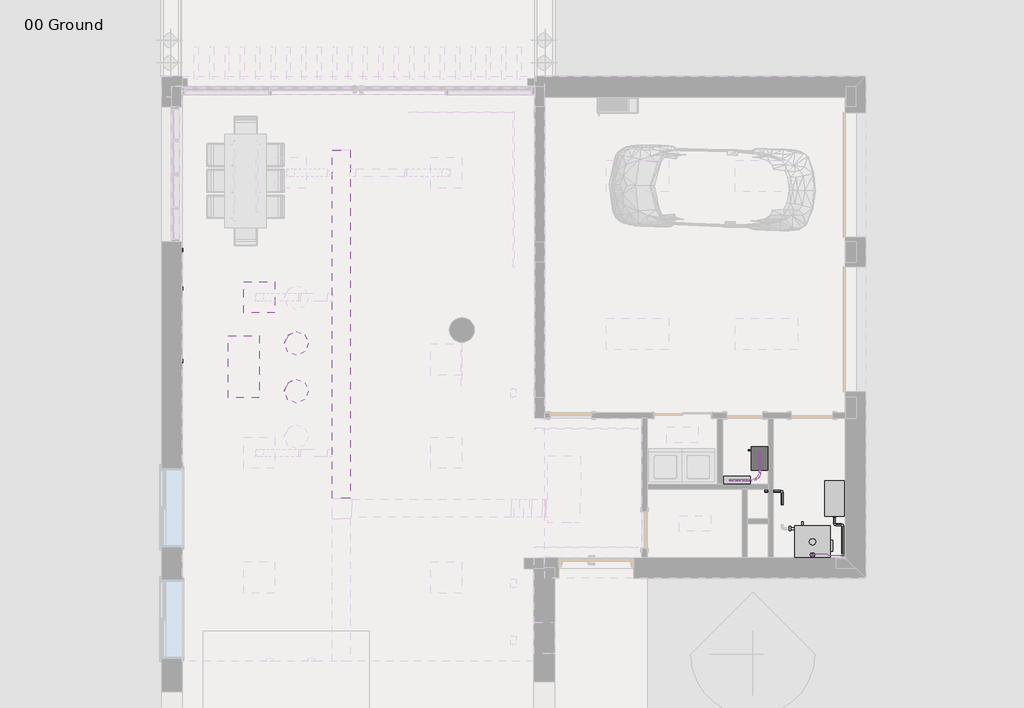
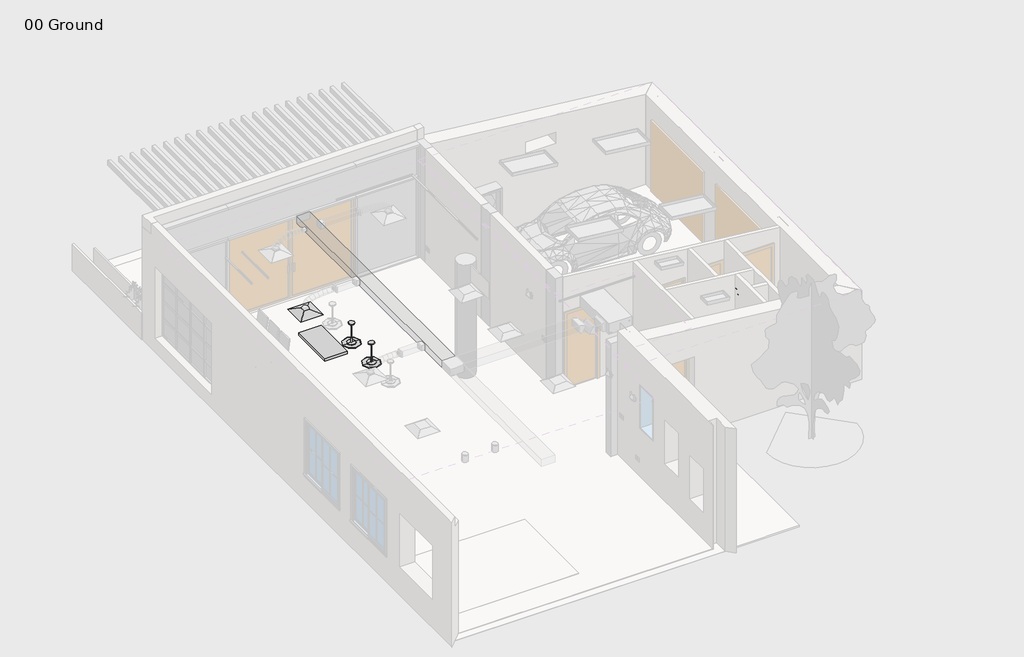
# One storey, part 5 of 7: 12 cable carrier segments, 9 cable carrier fittings, 9 proxies, 8 pipe segments, 7 pipe fittings, 3 light fixtures, 1 air terminal, 1 duct segment.
"""IFC4 building model written with IfcOpenShell, lengths in millimetres."""

from ifc_helpers import new_model, si_unit, point, frame, frame_2d, origin, place, context, project, spatial, polyline, circle_curve, trimmed, segment, composite_curve, outline, extrude, transform, mapped, element, save
from components import m_supply_diffuser_hosted_supply_diffuser_600x600mm_c6a520ad, proxy_44_kw_9a0c1582, m_automatic_transfer_switch_b6ba1148, m_receptacle_220v_standard_10251bba, m_single_phase_panel_120v_mcb_surface_100a_d3a5421d, tank_rectangular_in_out_8_530_l_114_l_610x305x610_4af9d899, m_conduit_elbow_plain_end_pvc_standard_b2e2501a, m_conduit_elbow_plain_end_pvc_standard_19d8f5be, m_conduit_elbow_plain_end_pvc_standard_b938fe7a, light_fixture_0600x1200mm_2_lamp_277v_2e4905c6, m_pendant_light_disk_150w_277v_c7fc852b, m_elbow_generic_standard_371413ad, m_transition_generic_standard_0e66ad51

model = new_model("IFC4")

# Units and contexts
model_context = context("Model", 3, world=origin())
ifc_project = project(units=[si_unit("LENGTHUNIT", "METRE", prefix="MILLI")], contexts=[model_context])

# Site, building, storey
site = spatial("IfcSite", under=ifc_project)
building = spatial("IfcBuilding", under=site)
storey = spatial("IfcBuildingStorey", under=building, Name="00 Ground", Elevation=0.0)

# Air terminal
placement = place(None, origin())
m_supply_diffuser_hosted_supply_diffuser_600x600mm_shape = m_supply_diffuser_hosted_supply_diffuser_600x600mm_c6a520ad(model_context)
element("IfcAirTerminal", 1, ObjectType="M_Supply Diffuser - Hosted : Supply Diffuser 600x600mm", at=placement, inside=storey, context=model_context, shape_type="MappedRepresentation", body=[
    mapped(m_supply_diffuser_hosted_supply_diffuser_600x600mm_shape, transform((-6624.5407999, 2267.2898352, 2700.0), x_axis=(1.0, 0.0, 0.0), y_axis=(0.0, -1.0, 0.0), z_axis=(0.0, 0.0, -1.0))),
])

# Proxies
proxy_44_kw_shape = proxy_44_kw_9a0c1582(model_context)
element("IfcBuildingElementProxy", 2, Name="M_Watertube Boiler - 44-733 kW : 44 kW", ObjectType="M_Watertube Boiler - 44-733 kW : 44 kW", at=placement, inside=storey, context=model_context, shape_type="MappedRepresentation", body=[
    mapped(proxy_44_kw_shape, transform((4377.4592001, -2749.7101648, 0.0), x_axis=(0.0, 1.0, 0.0), y_axis=(-1.0, 0.0, 0.0), z_axis=(0.0, 0.0, 1.0))),
])
m_automatic_transfer_switch_shape = m_automatic_transfer_switch_b6ba1148(model_context)
element("IfcBuildingElementProxy", 3, Name="M_Automatic Transfer Switch : 100-200 A", ObjectType="M_Automatic Transfer Switch : 100-200 A", at=placement, inside=storey, context=model_context, shape_type="MappedRepresentation", body=[
    mapped(m_automatic_transfer_switch_shape, transform((3180.7750853, -837.7101648, 0.0), x_axis=(0.0, -1.0, 0.0), y_axis=(1.0, 0.0, 0.0), z_axis=(0.0, 0.0, 1.0))),
])
m_receptacle_220v_standard_shape = m_receptacle_220v_standard_10251bba(model_context)
element("IfcBuildingElementProxy", 4, Name="M_Receptacle - 220V : Standard", ObjectType="M_Receptacle - 220V : Standard", at=placement, inside=storey, context=model_context, shape_type="MappedRepresentation", body=[
    mapped(m_receptacle_220v_standard_shape, transform((-8109.5407999, 3177.2898352, 460.0), x_axis=(0.0, 1.0, 0.0), y_axis=(0.0, 0.0, 1.0), z_axis=(1.0, 0.0, 0.0))),
])
element("IfcBuildingElementProxy", 5, Name="M_Receptacle - 220V : Standard", ObjectType="M_Receptacle - 220V : Standard", at=placement, inside=storey, context=model_context, shape_type="MappedRepresentation", body=[
    mapped(m_receptacle_220v_standard_shape, transform((2202.4592001, -932.7101648, 460.0), x_axis=(0.0, -1.0, 0.0), y_axis=(0.0, 0.0, 1.0), z_axis=(-1.0, 0.0, 0.0))),
])
element("IfcBuildingElementProxy", 6, Name="M_Receptacle - 220V : Standard", ObjectType="M_Receptacle - 220V : Standard", at=placement, inside=storey, context=model_context, shape_type="MappedRepresentation", body=[
    mapped(m_receptacle_220v_standard_shape, transform((2082.4592001, -1432.7101648, 1200.0), x_axis=(1.0, 0.0, 0.0), y_axis=(0.0, 0.0, 1.0), z_axis=(0.0, -1.0, 0.0))),
])
element("IfcBuildingElementProxy", 7, Name="M_Receptacle - 220V : Standard", ObjectType="M_Receptacle - 220V : Standard", at=placement, inside=storey, context=model_context, shape_type="MappedRepresentation", body=[
    mapped(m_receptacle_220v_standard_shape, transform((-8109.5407999, 2437.2898352, 1200.0), x_axis=(0.0, 1.0, 0.0), y_axis=(0.0, 0.0, 1.0), z_axis=(1.0, 0.0, 0.0))),
])
element("IfcBuildingElementProxy", 8, Name="M_Receptacle - 220V : Standard", ObjectType="M_Receptacle - 220V : Standard", at=placement, inside=storey, context=model_context, shape_type="MappedRepresentation", body=[
    mapped(m_receptacle_220v_standard_shape, transform((-8109.5407999, 1037.2898352, 1200.0), x_axis=(0.0, 1.0, 0.0), y_axis=(0.0, 0.0, 1.0), z_axis=(1.0, 0.0, 0.0))),
])
m_single_phase_panel_120v_mcb_surface_100a_shape = m_single_phase_panel_120v_mcb_surface_100a_d3a5421d(model_context)
element("IfcBuildingElementProxy", 9, Name="M_Single Phase Panel - 120V MCB - Surface : 100A", ObjectType="M_Single Phase Panel - 120V MCB - Surface : 100A", at=placement, inside=storey, context=model_context, shape_type="MappedRepresentation", body=[
    mapped(m_single_phase_panel_120v_mcb_surface_100a_shape, transform((2577.4592001, -1332.7101648, 1200.0), x_axis=(-1.0, 0.0, 0.0), y_axis=(0.0, 0.0, 1.0), z_axis=(0.0, 1.0, 0.0))),
])
tank_rectangular_in_out_8_530_l_114_l_610x305x610_shape = tank_rectangular_in_out_8_530_l_114_l_610x305x610_4af9d899(model_context)
element("IfcBuildingElementProxy", 10, Name="Tank - Rectangular In -Out- 8-530 L : 114 L (610x305x610)", ObjectType="Tank - Rectangular In -Out- 8-530 L : 114 L (610x305x610)", at=placement, inside=storey, context=model_context, shape_type="MappedRepresentation", body=[
    mapped(tank_rectangular_in_out_8_530_l_114_l_610x305x610_shape, transform((4457.4592001, -1612.7101648, 0.0), x_axis=(0.0, 1.0, 0.0), y_axis=(-1.0, 0.0, 0.0), z_axis=(0.0, 0.0, 1.0))),
])

# Cable carrier fittings
m_conduit_elbow_plain_end_pvc_standard_shape = m_conduit_elbow_plain_end_pvc_standard_b2e2501a(model_context)
element("IfcCableCarrierFitting", 11, ObjectType="M_Conduit Elbow - Plain End - PVC : Standard", at=placement, inside=storey, context=model_context, shape_type="MappedRepresentation", body=[
    mapped(m_conduit_elbow_plain_end_pvc_standard_shape, transform((3020.8679485, -837.7, 1799.9707127), x_axis=(0.00869557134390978, 0.0, 0.9999621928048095), y_axis=(0.0, -1.0, 0.0), z_axis=(0.9999621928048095, 0.0, -0.00869557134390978))),
])
element("IfcCableCarrierFitting", 12, ObjectType="M_Conduit Elbow - Plain End - PVC : Standard", at=placement, inside=storey, context=model_context, shape_type="MappedRepresentation", body=[
    mapped(m_conduit_elbow_plain_end_pvc_standard_shape, transform((3020.8679459, -782.7, 1850.0), x_axis=(0.00869557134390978, 0.0, 0.9999621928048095), y_axis=(0.0, -1.0, 0.0), z_axis=(0.9999621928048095, 0.0, -0.00869557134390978))),
])
element("IfcCableCarrierFitting", 13, ObjectType="M_Conduit Elbow - Plain End - PVC : Standard", at=placement, inside=storey, context=model_context, shape_type="MappedRepresentation", body=[
    mapped(m_conduit_elbow_plain_end_pvc_standard_shape, transform((3020.8679459, -727.7, 1910.0), x_axis=(0.00869557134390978, 0.0, 0.9999621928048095), y_axis=(0.0, -1.0, 0.0), z_axis=(0.9999621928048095, 0.0, -0.00869557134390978))),
])
element("IfcCableCarrierFitting", 14, ObjectType="M_Conduit Elbow - Plain End - PVC : Standard", at=placement, inside=storey, context=model_context, shape_type="MappedRepresentation", body=[
    mapped(m_conduit_elbow_plain_end_pvc_standard_shape, transform((3020.8679459, -1259.6868242, 1910.0205516), x_axis=(1.0, 0.0, 0.0), y_axis=(0.0, 0.9999999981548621, -6.074764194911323e-05), z_axis=(0.0, 6.074764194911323e-05, 0.9999999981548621))),
])
element("IfcCableCarrierFitting", 15, ObjectType="M_Conduit Elbow - Plain End - PVC : Standard", at=placement, inside=storey, context=model_context, shape_type="MappedRepresentation", body=[
    mapped(m_conduit_elbow_plain_end_pvc_standard_shape, transform((2445.8679459, -1259.6868242, 1910.0087863), x_axis=(-0.9999999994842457, 0.0, -3.211710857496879e-05), y_axis=(3.211710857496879e-05, 0.0, -0.9999999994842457), z_axis=(0.0, -1.0, 0.0))),
])
m_conduit_elbow_plain_end_pvc_standard_2_shape = m_conduit_elbow_plain_end_pvc_standard_19d8f5be(model_context)
element("IfcCableCarrierFitting", 16, ObjectType="M_Conduit Elbow - Plain End - PVC : Standard", at=placement, inside=storey, context=model_context, shape_type="MappedRepresentation", body=[
    mapped(m_conduit_elbow_plain_end_pvc_standard_2_shape, transform((3020.8679485, -1259.7000064, 1799.9707127), x_axis=(0.9999999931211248, -2.577286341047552e-08, -0.00011729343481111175), y_axis=(2.577286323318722e-08, 0.9999999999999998, -3.022987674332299e-12), z_axis=(0.0001172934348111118, 0.0, 0.9999999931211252))),
])
element("IfcCableCarrierFitting", 17, ObjectType="M_Conduit Elbow - Plain End - PVC : Standard", at=placement, inside=storey, context=model_context, shape_type="MappedRepresentation", body=[
    mapped(m_conduit_elbow_plain_end_pvc_standard_2_shape, transform((3020.8679459, -1259.70001, 1850.0), x_axis=(0.9999999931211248, -2.577286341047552e-08, -0.00011729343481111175), y_axis=(2.577286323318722e-08, 0.9999999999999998, -3.022987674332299e-12), z_axis=(0.0001172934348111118, 0.0, 0.9999999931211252))),
])
m_conduit_elbow_plain_end_pvc_standard_3_shape = m_conduit_elbow_plain_end_pvc_standard_b938fe7a(model_context)
element("IfcCableCarrierFitting", 18, ObjectType="M_Conduit Elbow - Plain End - PVC : Standard", at=placement, inside=storey, context=model_context, shape_type="MappedRepresentation", body=[
    mapped(m_conduit_elbow_plain_end_pvc_standard_3_shape, transform((2577.5, -1259.7, 1800.0227168), x_axis=(0.0, 0.0, 1.0), y_axis=(0.9999999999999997, -2.5773013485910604e-08, 0.0), z_axis=(2.5773013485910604e-08, 0.9999999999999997, 0.0))),
])
element("IfcCableCarrierFitting", 19, ObjectType="M_Conduit Elbow - Plain End - PVC : Standard", at=placement, inside=storey, context=model_context, shape_type="MappedRepresentation", body=[
    mapped(m_conduit_elbow_plain_end_pvc_standard_3_shape, transform((2507.9746265, -1259.699995, 1850.0683696), x_axis=(0.0, 0.0, 1.0), y_axis=(0.9999999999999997, -2.5773013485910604e-08, 0.0), z_axis=(2.5773013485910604e-08, 0.9999999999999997, 0.0))),
])

# Cable carrier segments
element("IfcCableCarrierSegment", 20, ObjectType="Rigid Nonmetallic Conduit (RNC Sch 40)", at=placement, inside=storey, context=model_context, shape_type="SweptSolid", body=[
    extrude(outline(composite_curve([segment(trimmed(circle_curve(frame_2d((0.0, 16.7)), 16.7), [point((0.0, 0.0))], [point((-16.7, 16.7))], False, "CARTESIAN"), True, "CONTINUOUS"), segment(trimmed(circle_curve(frame_2d((0.0, 16.7)), 16.7), [point((-16.7, 16.7))], [point((0.0, 33.4))], False, "CARTESIAN"), True, "CONTINUOUS"), segment(trimmed(circle_curve(frame_2d((0.0, 16.7)), 16.7), [point((0.0, 33.4))], [point((16.7, 16.7))], False, "CARTESIAN"), True, "CONTINUOUS"), segment(trimmed(circle_curve(frame_2d((0.0, 16.7)), 16.7), [point((16.7, 16.7))], [point((0.0, 0.0))], False, "CARTESIAN"), True, "CONTINUOUS")], self_intersect=False)), frame((3015.8158852, -854.4, 1219.0), z_axis=(0.008695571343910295, 0.0, 0.9999621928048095), x_axis=(0.9999621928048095, 0.0, -0.008695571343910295)), (0.0, 0.0, 1.0), 387.3176784),
])
element("IfcCableCarrierSegment", 21, ObjectType="Rigid Nonmetallic Conduit (RNC Sch 40)", at=placement, inside=storey, context=model_context, shape_type="SweptSolid", body=[
    extrude(outline(composite_curve([segment(trimmed(circle_curve(frame_2d((2577.5, -1259.7)), 16.7), [point((2594.2, -1259.7))], [point((2577.5, -1276.4))], False, "CARTESIAN"), True, "CONTINUOUS"), segment(trimmed(circle_curve(frame_2d((2577.5, -1259.7)), 16.7), [point((2577.5, -1276.4))], [point((2560.8, -1259.7))], False, "CARTESIAN"), True, "CONTINUOUS"), segment(trimmed(circle_curve(frame_2d((2577.5, -1259.7)), 16.7), [point((2560.8, -1259.7))], [point((2577.5, -1243.0))], False, "CARTESIAN"), True, "CONTINUOUS"), segment(trimmed(circle_curve(frame_2d((2577.5, -1259.7)), 16.7), [point((2577.5, -1243.0))], [point((2594.2, -1259.7))], False, "CARTESIAN"), True, "CONTINUOUS")], self_intersect=False)), frame((0.0, 0.0, 1200.0), z_axis=(0.0, 0.0, 1.0), x_axis=(1.0, 0.0, 0.0)), (0.0, 0.0, 1.0), 406.3305851),
])
element("IfcCableCarrierSegment", 22, ObjectType="Rigid Nonmetallic Conduit (RNC Sch 40)", at=placement, inside=storey, context=model_context, shape_type="SweptSolid", body=[
    extrude(outline(composite_curve([segment(trimmed(circle_curve(frame_2d((0.0, 16.7)), 16.7), [point((-16.7, 16.7))], [point((0.0, 33.3999999))], False, "CARTESIAN"), True, "CONTINUOUS"), segment(trimmed(circle_curve(frame_2d((0.0, 16.7)), 16.7), [point((0.0, 33.3999999))], [point((16.7, 16.7))], False, "CARTESIAN"), True, "CONTINUOUS"), segment(trimmed(circle_curve(frame_2d((0.0, 16.7)), 16.7), [point((16.7, 16.7))], [point((0.0, 0.0))], False, "CARTESIAN"), True, "CONTINUOUS"), segment(trimmed(circle_curve(frame_2d((0.0, 16.7)), 16.7), [point((0.0, 0.0))], [point((-16.7, 16.7))], False, "CARTESIAN"), True, "CONTINUOUS")], self_intersect=False)), frame((2827.1909873, -1259.7000014, 1783.2934296), z_axis=(-0.9999999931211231, -6.336122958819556e-08, 0.00011729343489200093), x_axis=(6.336122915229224e-08, -0.999999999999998, -7.432277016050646e-12)), (0.0, 0.0, 1.0), 56.0008161),
])
element("IfcCableCarrierSegment", 23, ObjectType="Rigid Nonmetallic Conduit (RNC Sch 40)", at=placement, inside=storey, context=model_context, shape_type="SweptSolid", body=[
    extrude(outline(composite_curve([segment(trimmed(circle_curve(frame_2d((1799.9707127, 3020.8679485)), 16.7), [point((1799.9707127, 3004.1679485))], [point((1783.2707127, 3020.8679485))], False, "CARTESIAN"), True, "CONTINUOUS"), segment(trimmed(circle_curve(frame_2d((1799.9707127, 3020.8679485)), 16.7), [point((1783.2707127, 3020.8679485))], [point((1799.9707127, 3037.5679485))], False, "CARTESIAN"), True, "CONTINUOUS"), segment(trimmed(circle_curve(frame_2d((1799.9707127, 3020.8679485)), 16.7), [point((1799.9707127, 3037.5679485))], [point((1816.6707127, 3020.8679485))], False, "CARTESIAN"), True, "CONTINUOUS"), segment(trimmed(circle_curve(frame_2d((1799.9707127, 3020.8679485)), 16.7), [point((1816.6707127, 3020.8679485))], [point((1799.9707127, 3004.1679485))], False, "CARTESIAN"), True, "CONTINUOUS")], self_intersect=False)), frame((0.0, -1066.0250027, 0.0), z_axis=(0.0, 1.0, 0.0), x_axis=(0.0, 0.0, 1.0)), (0.0, 0.0, 1.0), 34.6500027),
])
element("IfcCableCarrierSegment", 24, ObjectType="Rigid Nonmetallic Conduit (RNC Sch 40)", at=placement, inside=storey, context=model_context, shape_type="SweptSolid", body=[
    extrude(outline(composite_curve([segment(trimmed(circle_curve(frame_2d((0.0, 16.7)), 16.7), [point((0.0, 0.0))], [point((-16.7000001, 16.7))], False, "CARTESIAN"), True, "CONTINUOUS"), segment(trimmed(circle_curve(frame_2d((0.0, 16.7)), 16.7), [point((-16.7000001, 16.7))], [point((0.0, 33.4))], False, "CARTESIAN"), True, "CONTINUOUS"), segment(trimmed(circle_curve(frame_2d((0.0, 16.7)), 16.7), [point((0.0, 33.4))], [point((16.7, 16.7))], False, "CARTESIAN"), True, "CONTINUOUS"), segment(trimmed(circle_curve(frame_2d((0.0, 16.7)), 16.7), [point((16.7, 16.7))], [point((0.0, 0.0))], False, "CARTESIAN"), True, "CONTINUOUS")], self_intersect=False)), frame((3015.3808659, -799.4, 1219.0037829), z_axis=(0.008695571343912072, 0.0, 0.9999621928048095), x_axis=(0.9999621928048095, 0.0, -0.008695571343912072)), (0.0, 0.0, 1.0), 437.3450742),
])
element("IfcCableCarrierSegment", 25, ObjectType="Rigid Nonmetallic Conduit (RNC Sch 40)", at=placement, inside=storey, context=model_context, shape_type="SweptSolid", body=[
    extrude(outline(composite_curve([segment(trimmed(circle_curve(frame_2d((0.0, -16.7)), 16.7), [point((-16.7, -16.7))], [point((0.0, 0.0))], False, "CARTESIAN"), True, "CONTINUOUS"), segment(trimmed(circle_curve(frame_2d((0.0, -16.7)), 16.7), [point((0.0, 0.0))], [point((16.7, -16.7))], False, "CARTESIAN"), True, "CONTINUOUS"), segment(trimmed(circle_curve(frame_2d((0.0, -16.7)), 16.7), [point((16.7, -16.7))], [point((0.0, -33.4))], False, "CARTESIAN"), True, "CONTINUOUS"), segment(trimmed(circle_curve(frame_2d((0.0, -16.7)), 16.7), [point((0.0, -33.4))], [point((-16.7, -16.7))], False, "CARTESIAN"), True, "CONTINUOUS")], self_intersect=False)), frame((2507.9684929, -1276.4, 1188.556289), z_axis=(1.3111126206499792e-05, 1.0669673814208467e-08, 0.9999999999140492), x_axis=(-0.9999999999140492, 0.0, 1.311112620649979e-05)), (0.0, 0.0, 1.0), 467.8199491),
])
element("IfcCableCarrierSegment", 26, ObjectType="Rigid Nonmetallic Conduit (RNC Sch 40)", at=placement, inside=storey, context=model_context, shape_type="SweptSolid", body=[
    extrude(outline(composite_curve([segment(trimmed(circle_curve(frame_2d((0.0, 16.7)), 16.7), [point((-16.7, 16.7))], [point((0.0, 33.4))], False, "CARTESIAN"), True, "CONTINUOUS"), segment(trimmed(circle_curve(frame_2d((0.0, 16.7)), 16.7), [point((0.0, 33.4))], [point((16.7, 16.7))], False, "CARTESIAN"), True, "CONTINUOUS"), segment(trimmed(circle_curve(frame_2d((0.0, 16.7)), 16.7), [point((16.7, 16.7))], [point((0.0, 0.0))], False, "CARTESIAN"), True, "CONTINUOUS"), segment(trimmed(circle_curve(frame_2d((0.0, 16.7)), 16.7), [point((0.0, 0.0))], [point((-16.7, 16.7))], False, "CARTESIAN"), True, "CONTINUOUS")], self_intersect=False)), frame((2827.1898924, -1259.700005, 1833.3227171), z_axis=(-0.9999999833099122, 4.01453987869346e-08, 0.0001827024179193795), x_axis=(-4.014539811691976e-08, -0.9999999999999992, 7.334577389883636e-12)), (0.0, 0.0, 1.0), 125.5261887),
])
element("IfcCableCarrierSegment", 27, ObjectType="Rigid Nonmetallic Conduit (RNC Sch 40)", at=placement, inside=storey, context=model_context, shape_type="SweptSolid", body=[
    extrude(outline(composite_curve([segment(trimmed(circle_curve(frame_2d((1850.0, 3020.8679459)), 16.7), [point((1850.0019588, 3004.167946))], [point((1833.3000001, 3020.8659871))], False, "CARTESIAN"), True, "CONTINUOUS"), segment(trimmed(circle_curve(frame_2d((1850.0, 3020.8679459)), 16.7), [point((1833.3000001, 3020.8659871))], [point((1849.9980412, 3037.5679458))], False, "CARTESIAN"), True, "CONTINUOUS"), segment(trimmed(circle_curve(frame_2d((1850.0, 3020.8679459)), 16.7), [point((1849.9980412, 3037.5679458))], [point((1866.6999999, 3020.8699047))], False, "CARTESIAN"), True, "CONTINUOUS"), segment(trimmed(circle_curve(frame_2d((1850.0, 3020.8679459)), 16.7), [point((1866.6999999, 3020.8699047))], [point((1850.0019588, 3004.167946))], False, "CARTESIAN"), True, "CONTINUOUS")], self_intersect=False)), frame((0.0, -1066.0250063, 0.0), z_axis=(0.0, 1.0, 0.0), x_axis=(0.0, 0.0, 1.0)), (0.0, 0.0, 1.0), 89.6500063),
])
element("IfcCableCarrierSegment", 28, ObjectType="Rigid Nonmetallic Conduit (RNC Sch 40)", at=placement, inside=storey, context=model_context, shape_type="SweptSolid", body=[
    extrude(outline(composite_curve([segment(trimmed(circle_curve(frame_2d((0.0, 16.7)), 16.7), [point((0.0, 0.0))], [point((-16.7, 16.7))], False, "CARTESIAN"), True, "CONTINUOUS"), segment(trimmed(circle_curve(frame_2d((0.0, 16.7)), 16.7), [point((-16.7, 16.7))], [point((0.0, 33.4))], False, "CARTESIAN"), True, "CONTINUOUS"), segment(trimmed(circle_curve(frame_2d((0.0, 16.7)), 16.7), [point((0.0, 33.4))], [point((16.7, 16.7))], False, "CARTESIAN"), True, "CONTINUOUS"), segment(trimmed(circle_curve(frame_2d((0.0, 16.7)), 16.7), [point((16.7, 16.7))], [point((0.0, 0.0))], False, "CARTESIAN"), True, "CONTINUOUS")], self_intersect=False)), frame((3014.8591513, -744.4, 1219.0083197), z_axis=(0.008695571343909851, 0.0, 0.9999621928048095), x_axis=(0.9999621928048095, 0.0, -0.008695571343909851)), (0.0, 0.0, 1.0), 497.3428058),
])
element("IfcCableCarrierSegment", 29, ObjectType="Rigid Nonmetallic Conduit (RNC Sch 40)", at=placement, inside=storey, context=model_context, shape_type="SweptSolid", body=[
    extrude(outline(composite_curve([segment(trimmed(circle_curve(frame_2d((0.0, 16.7)), 16.7), [point((0.0, 0.0))], [point((-16.7, 16.7))], False, "CARTESIAN"), True, "CONTINUOUS"), segment(trimmed(circle_curve(frame_2d((0.0, 16.7)), 16.7), [point((-16.7, 16.7))], [point((0.0, 33.4))], False, "CARTESIAN"), True, "CONTINUOUS"), segment(trimmed(circle_curve(frame_2d((0.0, 16.7)), 16.7), [point((0.0, 33.4))], [point((16.7, 16.7))], False, "CARTESIAN"), True, "CONTINUOUS"), segment(trimmed(circle_curve(frame_2d((0.0, 16.7)), 16.7), [point((16.7, 16.7))], [point((0.0, 0.0))], False, "CARTESIAN"), True, "CONTINUOUS")], self_intersect=False)), frame((3004.1679459, -921.375, 1910.0), z_axis=(0.0, -0.9999999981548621, 6.074764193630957e-05), x_axis=(0.0, -6.074764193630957e-05, -0.9999999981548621)), (0.0, 0.0, 1.0), 144.6368249),
])
element("IfcCableCarrierSegment", 30, ObjectType="Rigid Nonmetallic Conduit (RNC Sch 40)", at=placement, inside=storey, context=model_context, shape_type="SweptSolid", body=[
    extrude(outline(composite_curve([segment(trimmed(circle_curve(frame_2d((0.0, -16.7)), 16.7), [point((-16.7, -16.7))], [point((0.0, 0.0))], False, "CARTESIAN"), True, "CONTINUOUS"), segment(trimmed(circle_curve(frame_2d((0.0, -16.7)), 16.7), [point((0.0, 0.0))], [point((16.7, -16.7))], False, "CARTESIAN"), True, "CONTINUOUS"), segment(trimmed(circle_curve(frame_2d((0.0, -16.7)), 16.7), [point((16.7, -16.7))], [point((0.0, -33.4))], False, "CARTESIAN"), True, "CONTINUOUS"), segment(trimmed(circle_curve(frame_2d((0.0, -16.7)), 16.7), [point((0.0, -33.4))], [point((-16.7, -16.7))], False, "CARTESIAN"), True, "CONTINUOUS")], self_intersect=False)), frame((2639.5434393, -1259.6868242, 1893.3150066), z_axis=(0.9999999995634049, 0.0, 2.9549793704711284e-05), x_axis=(0.0, -1.0, 0.0)), (0.0, 0.0, 1.0), 187.6500002),
])
element("IfcCableCarrierSegment", 31, ObjectType="Rigid Nonmetallic Conduit (RNC Sch 40)", at=placement, inside=storey, context=model_context, shape_type="SweptSolid", body=[
    extrude(outline(composite_curve([segment(trimmed(circle_curve(frame_2d((2445.8897856, -1259.6868242)), 16.7), [point((2462.5897856, -1259.6868242))], [point((2445.8897856, -1276.3868242))], False, "CARTESIAN"), True, "CONTINUOUS"), segment(trimmed(circle_curve(frame_2d((2445.8897856, -1259.6868242)), 16.7), [point((2445.8897856, -1276.3868242))], [point((2429.1897856, -1259.6868242))], False, "CARTESIAN"), True, "CONTINUOUS"), segment(trimmed(circle_curve(frame_2d((2445.8897856, -1259.6868242)), 16.7), [point((2429.1897856, -1259.6868242))], [point((2445.8897856, -1242.9868242))], False, "CARTESIAN"), True, "CONTINUOUS"), segment(trimmed(circle_curve(frame_2d((2445.8897856, -1259.6868242)), 16.7), [point((2445.8897856, -1242.9868242))], [point((2462.5897856, -1259.6868242))], False, "CARTESIAN"), True, "CONTINUOUS")], self_intersect=False)), frame((0.0, 0.0, 1200.0), z_axis=(0.0, 0.0, 1.0), x_axis=(1.0, 0.0, 0.0)), (0.0, 0.0, 1.0), 516.3343231),
])

# Duct segment
element("IfcDuctSegment", 32, ObjectType="Radius Elbows / Taps", at=placement, inside=storey, context=model_context, shape_type="SweptSolid", body=[
    extrude(outline(polyline([(-4869.5407999, -1602.2101648), (-5219.5407999, -1602.2101648), (-5219.5407999, 5097.7898352), (-4869.5407999, 5097.7898352), (-4869.5407999, -1602.2101648)])), frame((0.0, 0.0, 2990.0), z_axis=(0.0, 0.0, 1.0), x_axis=(1.0, 0.0, 0.0)), (0.0, 0.0, 1.0), 200.0),
])

# Light fixtures
light_fixture_0600x1200mm_2_lamp_277v_shape = light_fixture_0600x1200mm_2_lamp_277v_2e4905c6(model_context)
element("IfcLightFixture", 33, ObjectType="M_Recessed Volumetric Light : 0600x1200mm(2 Lamp) - 277V", at=placement, inside=storey, context=model_context, shape_type="MappedRepresentation", body=[
    mapped(light_fixture_0600x1200mm_2_lamp_277v_shape, transform((-7224.5407999, 927.2898352, 2700.0), x_axis=(0.0, -1.0, 0.0), y_axis=(-1.0, 0.0, 0.0), z_axis=(0.0, 0.0, -1.0))),
])
m_pendant_light_disk_150w_277v_shape = m_pendant_light_disk_150w_277v_c7fc852b(model_context)
element("IfcLightFixture", 34, ObjectType="M_Pendant Light - Disk : 150W - 277V", at=placement, inside=storey, context=model_context, shape_type="MappedRepresentation", body=[
    mapped(m_pendant_light_disk_150w_277v_shape, transform((-5914.0319685, 1378.1234412, 2700.0), x_axis=(1.0, 0.0, 0.0), y_axis=(0.0, -1.0, 0.0), z_axis=(0.0, 0.0, -1.0))),
])
element("IfcLightFixture", 35, ObjectType="M_Pendant Light - Disk : 150W - 277V", at=placement, inside=storey, context=model_context, shape_type="MappedRepresentation", body=[
    mapped(m_pendant_light_disk_150w_277v_shape, transform((-5914.0319685, 459.6708398, 2700.0), x_axis=(1.0, 0.0, 0.0), y_axis=(0.0, -1.0, 0.0), z_axis=(0.0, 0.0, -1.0))),
])

# Pipe fittings
m_elbow_generic_standard_shape = m_elbow_generic_standard_371413ad(model_context)
element("IfcPipeFitting", 36, ObjectType="M_Elbow - Generic : Standard", at=placement, inside=storey, context=model_context, shape_type="MappedRepresentation", body=[
    mapped(m_elbow_generic_standard_shape, transform((3451.6013357, -1471.7101648, 692.0), x_axis=(0.0, 1.0, 0.0), y_axis=(-1.0, 0.0, 0.0), z_axis=(0.0, 0.0, 1.0))),
])
element("IfcPipeFitting", 37, ObjectType="M_Elbow - Generic : Standard", at=placement, inside=storey, context=model_context, shape_type="MappedRepresentation", body=[
    mapped(m_elbow_generic_standard_shape, transform((4457.4592001, -2117.2601648, 55.1), x_axis=(0.0, -1.0, 0.0), y_axis=(1.0, 0.0, 0.0), z_axis=(0.0, 0.0, 1.0))),
])
element("IfcPipeFitting", 38, ObjectType="M_Elbow - Generic : Standard", at=placement, inside=storey, context=model_context, shape_type="MappedRepresentation", body=[
    mapped(m_elbow_generic_standard_shape, transform((4617.4592001, -2117.2601648, 55.1), x_axis=(0.0, 1.0, 0.0), y_axis=(-1.0, 0.0, 0.0), z_axis=(0.0, 0.0, 1.0))),
])
element("IfcPipeFitting", 39, ObjectType="M_Elbow - Generic : Standard", at=placement, inside=storey, context=model_context, shape_type="MappedRepresentation", body=[
    mapped(m_elbow_generic_standard_shape, transform((4617.4592001, -2698.7101648, 55.1), x_axis=(0.0, -1.0, 0.0), y_axis=(0.0, 0.0, 1.0), z_axis=(-1.0, 0.0, 0.0))),
])
element("IfcPipeFitting", 40, ObjectType="M_Elbow - Generic : Standard", at=placement, inside=storey, context=model_context, shape_type="MappedRepresentation", body=[
    mapped(m_elbow_generic_standard_shape, transform((4617.4592001, -2698.7101648, 1500.0), x_axis=(0.0, 0.0, 1.0), y_axis=(-1.0, 0.0, 0.0), z_axis=(0.0, -1.0, 0.0))),
])
element("IfcPipeFitting", 41, ObjectType="M_Elbow - Generic : Standard", at=placement, inside=storey, context=model_context, shape_type="MappedRepresentation", body=[
    mapped(m_elbow_generic_standard_shape, transform((4034.4592001, -2698.7101648, 1500.0), x_axis=(0.0, 0.0, 1.0), y_axis=(1.0, 0.0, 0.0), z_axis=(0.0, 1.0, 0.0))),
])
m_transition_generic_standard_shape = m_transition_generic_standard_0e66ad51(model_context)
element("IfcPipeFitting", 42, ObjectType="M_Transition - Generic : Standard", at=placement, inside=storey, context=model_context, shape_type="MappedRepresentation", body=[
    mapped(m_transition_generic_standard_shape, transform((4457.4592001, -1957.2601648, 55.1), x_axis=(0.0, -1.0, 0.0), y_axis=(1.0, 0.0, 0.0), z_axis=(0.0, 0.0, 1.0))),
])

# Pipe segments
element("IfcPipeSegment", 43, ObjectType="Standard", at=placement, inside=storey, context=model_context, shape_type="SweptSolid", body=[
    extrude(outline(composite_curve([segment(trimmed(circle_curve(frame_2d((692.0, 3451.6013357)), 19.05), [point((692.0, 3470.6513357))], [point((711.05, 3451.6013357))], False, "CARTESIAN"), True, "CONTINUOUS"), segment(trimmed(circle_curve(frame_2d((692.0, 3451.6013357)), 19.05), [point((711.05, 3451.6013357))], [point((692.0, 3432.5513357))], False, "CARTESIAN"), True, "CONTINUOUS"), segment(trimmed(circle_curve(frame_2d((692.0, 3451.6013357)), 19.05), [point((692.0, 3432.5513357))], [point((672.95, 3451.6013357))], False, "CARTESIAN"), True, "CONTINUOUS"), segment(trimmed(circle_curve(frame_2d((692.0, 3451.6013357)), 19.05), [point((672.95, 3451.6013357))], [point((692.0, 3470.6513357))], False, "CARTESIAN"), True, "CONTINUOUS")], self_intersect=False)), frame((0.0, -1731.7101648, 0.0), z_axis=(0.0, 1.0, 0.0), x_axis=(0.0, 0.0, 1.0)), (0.0, 0.0, 1.0), 233.0125),
])
element("IfcPipeSegment", 44, ObjectType="Standard", at=placement, inside=storey, context=model_context, shape_type="SweptSolid", body=[
    extrude(outline(composite_curve([segment(trimmed(circle_curve(frame_2d((-1471.7101648, 692.0)), 19.05), [point((-1452.6601648, 692.0))], [point((-1471.7101648, 672.95))], False, "CARTESIAN"), True, "CONTINUOUS"), segment(trimmed(circle_curve(frame_2d((-1471.7101648, 692.0)), 19.05), [point((-1471.7101648, 672.95))], [point((-1490.7601648, 692.0))], False, "CARTESIAN"), True, "CONTINUOUS"), segment(trimmed(circle_curve(frame_2d((-1471.7101648, 692.0)), 19.05), [point((-1490.7601648, 692.0))], [point((-1471.7101648, 711.05))], False, "CARTESIAN"), True, "CONTINUOUS"), segment(trimmed(circle_curve(frame_2d((-1471.7101648, 692.0)), 19.05), [point((-1471.7101648, 711.05))], [point((-1452.6601648, 692.0))], False, "CARTESIAN"), True, "CONTINUOUS")], self_intersect=False)), frame((3111.6013357, 0.0, 0.0), z_axis=(1.0, 0.0, 0.0), x_axis=(0.0, 1.0, 0.0)), (0.0, 0.0, 1.0), 313.0125),
])
element("IfcPipeSegment", 45, ObjectType="Standard", at=placement, inside=storey, context=model_context, shape_type="SweptSolid", body=[
    extrude(outline(composite_curve([segment(trimmed(circle_curve(frame_2d((55.1, 4457.4592001)), 19.05), [point((55.1, 4438.4092001))], [point((36.05, 4457.4592001))], False, "CARTESIAN"), True, "CONTINUOUS"), segment(trimmed(circle_curve(frame_2d((55.1, 4457.4592001)), 19.05), [point((36.05, 4457.4592001))], [point((55.1, 4476.5092001))], False, "CARTESIAN"), True, "CONTINUOUS"), segment(trimmed(circle_curve(frame_2d((55.1, 4457.4592001)), 19.05), [point((55.1, 4476.5092001))], [point((74.15, 4457.4592001))], False, "CARTESIAN"), True, "CONTINUOUS"), segment(trimmed(circle_curve(frame_2d((55.1, 4457.4592001)), 19.05), [point((74.15, 4457.4592001))], [point((55.1, 4438.4092001))], False, "CARTESIAN"), True, "CONTINUOUS")], self_intersect=False)), frame((0.0, -2090.2726648, 0.0), z_axis=(0.0, 1.0, 0.0), x_axis=(0.0, 0.0, 1.0)), (0.0, 0.0, 1.0), 122.69375),
])
element("IfcPipeSegment", 46, ObjectType="Standard", at=placement, inside=storey, context=model_context, shape_type="SweptSolid", body=[
    extrude(outline(composite_curve([segment(trimmed(circle_curve(frame_2d((-2117.2601648, 55.1)), 19.05), [point((-2136.3101648, 55.1))], [point((-2117.2601648, 74.15))], False, "CARTESIAN"), True, "CONTINUOUS"), segment(trimmed(circle_curve(frame_2d((-2117.2601648, 55.1)), 19.05), [point((-2117.2601648, 74.15))], [point((-2098.2101648, 55.1))], False, "CARTESIAN"), True, "CONTINUOUS"), segment(trimmed(circle_curve(frame_2d((-2117.2601648, 55.1)), 19.05), [point((-2098.2101648, 55.1))], [point((-2117.2601648, 36.05))], False, "CARTESIAN"), True, "CONTINUOUS"), segment(trimmed(circle_curve(frame_2d((-2117.2601648, 55.1)), 19.05), [point((-2117.2601648, 36.05))], [point((-2136.3101648, 55.1))], False, "CARTESIAN"), True, "CONTINUOUS")], self_intersect=False)), frame((4484.4467001, 0.0, 0.0), z_axis=(1.0, 0.0, 0.0), x_axis=(0.0, 1.0, 0.0)), (0.0, 0.0, 1.0), 106.025),
])
element("IfcPipeSegment", 47, ObjectType="Standard", at=placement, inside=storey, context=model_context, shape_type="SweptSolid", body=[
    extrude(outline(composite_curve([segment(trimmed(circle_curve(frame_2d((55.1, 4617.4592001)), 19.05), [point((55.1, 4598.4092001))], [point((36.05, 4617.4592001))], False, "CARTESIAN"), True, "CONTINUOUS"), segment(trimmed(circle_curve(frame_2d((55.1, 4617.4592001)), 19.05), [point((36.05, 4617.4592001))], [point((55.1, 4636.5092001))], False, "CARTESIAN"), True, "CONTINUOUS"), segment(trimmed(circle_curve(frame_2d((55.1, 4617.4592001)), 19.05), [point((55.1, 4636.5092001))], [point((74.15, 4617.4592001))], False, "CARTESIAN"), True, "CONTINUOUS"), segment(trimmed(circle_curve(frame_2d((55.1, 4617.4592001)), 19.05), [point((74.15, 4617.4592001))], [point((55.1, 4598.4092001))], False, "CARTESIAN"), True, "CONTINUOUS")], self_intersect=False)), frame((0.0, -2671.7226648, 0.0), z_axis=(0.0, 1.0, 0.0), x_axis=(0.0, 0.0, 1.0)), (0.0, 0.0, 1.0), 527.475),
])
element("IfcPipeSegment", 48, ObjectType="Standard", at=placement, inside=storey, context=model_context, shape_type="SweptSolid", body=[
    extrude(outline(composite_curve([segment(trimmed(circle_curve(frame_2d((-2698.7101648, 1500.0)), 19.05), [point((-2679.6601648, 1500.0))], [point((-2698.7101648, 1480.95))], False, "CARTESIAN"), True, "CONTINUOUS"), segment(trimmed(circle_curve(frame_2d((-2698.7101648, 1500.0)), 19.05), [point((-2698.7101648, 1480.95))], [point((-2717.7601648, 1500.0))], False, "CARTESIAN"), True, "CONTINUOUS"), segment(trimmed(circle_curve(frame_2d((-2698.7101648, 1500.0)), 19.05), [point((-2717.7601648, 1500.0))], [point((-2698.7101648, 1519.05))], False, "CARTESIAN"), True, "CONTINUOUS"), segment(trimmed(circle_curve(frame_2d((-2698.7101648, 1500.0)), 19.05), [point((-2698.7101648, 1519.05))], [point((-2679.6601648, 1500.0))], False, "CARTESIAN"), True, "CONTINUOUS")], self_intersect=False)), frame((4061.4467001, 0.0, 0.0), z_axis=(1.0, 0.0, 0.0), x_axis=(0.0, 1.0, 0.0)), (0.0, 0.0, 1.0), 529.025),
])
element("IfcPipeSegment", 49, ObjectType="Standard", at=placement, inside=storey, context=model_context, shape_type="SweptSolid", body=[
    extrude(outline(composite_curve([segment(trimmed(circle_curve(frame_2d((4617.4592001, -2698.7101648)), 19.05), [point((4598.4092001, -2698.7101648))], [point((4617.4592001, -2679.6601648))], False, "CARTESIAN"), True, "CONTINUOUS"), segment(trimmed(circle_curve(frame_2d((4617.4592001, -2698.7101648)), 19.05), [point((4617.4592001, -2679.6601648))], [point((4636.5092001, -2698.7101648))], False, "CARTESIAN"), True, "CONTINUOUS"), segment(trimmed(circle_curve(frame_2d((4617.4592001, -2698.7101648)), 19.05), [point((4636.5092001, -2698.7101648))], [point((4617.4592001, -2717.7601648))], False, "CARTESIAN"), True, "CONTINUOUS"), segment(trimmed(circle_curve(frame_2d((4617.4592001, -2698.7101648)), 19.05), [point((4617.4592001, -2717.7601648))], [point((4598.4092001, -2698.7101648))], False, "CARTESIAN"), True, "CONTINUOUS")], self_intersect=False)), frame((0.0, 0.0, 82.0875), z_axis=(0.0, 0.0, 1.0), x_axis=(1.0, 0.0, 0.0)), (0.0, 0.0, 1.0), 1390.925),
])
element("IfcPipeSegment", 50, ObjectType="Standard", at=placement, inside=storey, context=model_context, shape_type="SweptSolid", body=[
    extrude(outline(composite_curve([segment(trimmed(circle_curve(frame_2d((4034.4592001, -2698.7101648)), 19.05), [point((4015.4092001, -2698.7101648))], [point((4034.4592001, -2679.6601648))], False, "CARTESIAN"), True, "CONTINUOUS"), segment(trimmed(circle_curve(frame_2d((4034.4592001, -2698.7101648)), 19.05), [point((4034.4592001, -2679.6601648))], [point((4053.5092001, -2698.7101648))], False, "CARTESIAN"), True, "CONTINUOUS"), segment(trimmed(circle_curve(frame_2d((4034.4592001, -2698.7101648)), 19.05), [point((4053.5092001, -2698.7101648))], [point((4034.4592001, -2717.7601648))], False, "CARTESIAN"), True, "CONTINUOUS"), segment(trimmed(circle_curve(frame_2d((4034.4592001, -2698.7101648)), 19.05), [point((4034.4592001, -2717.7601648))], [point((4015.4092001, -2698.7101648))], False, "CARTESIAN"), True, "CONTINUOUS")], self_intersect=False)), frame((0.0, 0.0, 1136.6), z_axis=(0.0, 0.0, 1.0), x_axis=(1.0, 0.0, 0.0)), (0.0, 0.0, 1.0), 336.4125),
])

save(model, "model.ifc")
